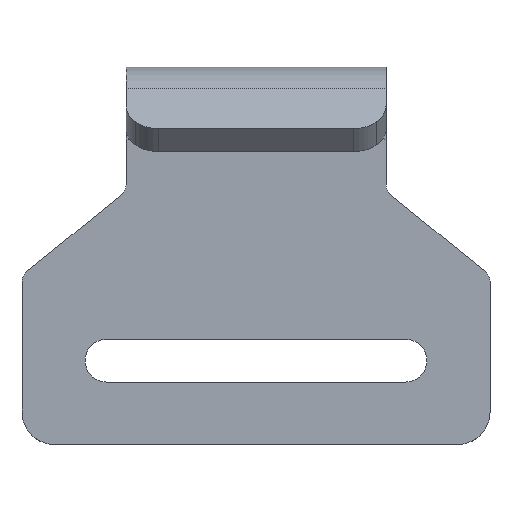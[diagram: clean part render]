
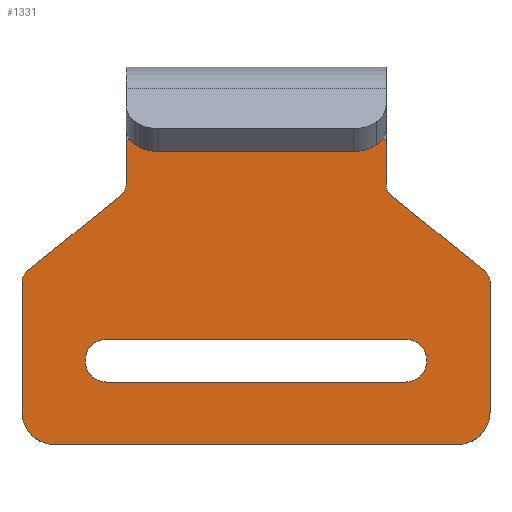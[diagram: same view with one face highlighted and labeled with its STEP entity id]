
A CAD part, top view. The second image highlights one B-rep face of the part: STEP entity #1331.
In plain terms, the highlighted planar face has unit normal (0, 0, 1).
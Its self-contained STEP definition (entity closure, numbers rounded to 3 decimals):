
#251=CARTESIAN_POINT('',(9.866,0.694,1.75));
#252=VERTEX_POINT('',#251);
#268=CARTESIAN_POINT('',(9.769,1.124,1.75));
#269=VERTEX_POINT('',#268);
#276=CARTESIAN_POINT('',(10.769,1.124,1.75));
#277=DIRECTION('',(0.0,0.0,1.0));
#278=DIRECTION('',(-0.903,-0.43,0.0));
#279=AXIS2_PLACEMENT_3D('',#276,#277,#278);
#280=CIRCLE('',#279,1.0);
#281=EDGE_CURVE('',#269,#252,#280,.T.);
#293=CARTESIAN_POINT('',(17.672,-5.898,1.75));
#294=VERTEX_POINT('',#293);
#310=CARTESIAN_POINT('',(17.4,-5.552,1.75));
#311=VERTEX_POINT('',#310);
#318=CARTESIAN_POINT('',(16.769,-6.328,1.75));
#319=DIRECTION('',(0.0,0.0,-1.0));
#320=DIRECTION('',(0.903,0.43,0.0));
#321=AXIS2_PLACEMENT_3D('',#318,#319,#320);
#322=CIRCLE('',#321,1.0);
#323=EDGE_CURVE('',#311,#294,#322,.T.);
#335=CARTESIAN_POINT('',(-10.328,0.694,1.75));
#336=VERTEX_POINT('',#335);
#352=CARTESIAN_POINT('',(-10.6,0.348,1.75));
#353=VERTEX_POINT('',#352);
#360=CARTESIAN_POINT('',(-11.231,1.124,1.75));
#361=DIRECTION('',(0.0,0.0,1.));
#362=DIRECTION('',(0.903,-0.43,0.0));
#363=AXIS2_PLACEMENT_3D('',#360,#361,#362);
#364=CIRCLE('',#363,1.0);
#365=EDGE_CURVE('',#353,#336,#364,.T.);
#377=CARTESIAN_POINT('',(-18.134,-5.898,1.75));
#378=VERTEX_POINT('',#377);
#394=CARTESIAN_POINT('',(-18.231,-6.328,1.75));
#395=VERTEX_POINT('',#394);
#402=CARTESIAN_POINT('',(-17.231,-6.328,1.75));
#403=DIRECTION('',(0.0,0.0,-1.0));
#404=DIRECTION('',(-0.903,0.43,0.0));
#405=AXIS2_PLACEMENT_3D('',#402,#403,#404);
#406=CIRCLE('',#405,1.0);
#407=EDGE_CURVE('',#395,#378,#406,.T.);
#419=CARTESIAN_POINT('',(17.037,-18.119,1.75));
#420=VERTEX_POINT('',#419);
#436=CARTESIAN_POINT('',(17.769,-16.352,1.75));
#437=VERTEX_POINT('',#436);
#444=CARTESIAN_POINT('',(15.269,-16.352,1.75));
#445=DIRECTION('',(0.0,0.0,-1.));
#446=DIRECTION('',(0.707,-0.707,0.0));
#447=AXIS2_PLACEMENT_3D('',#444,#445,#446);
#448=CIRCLE('',#447,2.5);
#449=EDGE_CURVE('',#437,#420,#448,.T.);
#461=CARTESIAN_POINT('',(-17.499,-18.119,1.75));
#462=VERTEX_POINT('',#461);
#478=CARTESIAN_POINT('',(-15.731,-18.852,1.75));
#479=VERTEX_POINT('',#478);
#486=CARTESIAN_POINT('',(-15.731,-16.352,1.75));
#487=DIRECTION('',(0.0,0.0,-1.));
#488=DIRECTION('',(-0.707,-0.707,0.0));
#489=AXIS2_PLACEMENT_3D('',#486,#487,#488);
#490=CIRCLE('',#489,2.5);
#491=EDGE_CURVE('',#479,#462,#490,.T.);
#503=CARTESIAN_POINT('',(12.919,-12.402,1.75));
#504=VERTEX_POINT('',#503);
#520=CARTESIAN_POINT('',(11.269,-14.052,1.75));
#521=VERTEX_POINT('',#520);
#528=CARTESIAN_POINT('',(11.269,-12.402,1.75));
#529=DIRECTION('',(0.0,0.0,-1.0));
#530=DIRECTION('',(1.0,0.0,0.0));
#531=AXIS2_PLACEMENT_3D('',#528,#529,#530);
#532=CIRCLE('',#531,1.65);
#533=EDGE_CURVE('',#504,#521,#532,.T.);
#543=CARTESIAN_POINT('',(-13.381,-12.402,1.75));
#544=VERTEX_POINT('',#543);
#553=CARTESIAN_POINT('',(-11.731,-14.052,1.75));
#554=VERTEX_POINT('',#553);
#555=CARTESIAN_POINT('',(-11.731,-12.402,1.75));
#556=DIRECTION('',(0.0,0.0,-1.0));
#557=DIRECTION('',(1.0,0.0,0.0));
#558=AXIS2_PLACEMENT_3D('',#555,#556,#557);
#559=CIRCLE('',#558,1.65);
#560=EDGE_CURVE('',#554,#544,#559,.T.);
#595=CARTESIAN_POINT('',(-11.731,-10.752,1.75));
#596=VERTEX_POINT('',#595);
#603=CARTESIAN_POINT('',(-11.731,-12.402,1.75));
#604=DIRECTION('',(0.0,0.0,-1.0));
#605=DIRECTION('',(1.0,0.0,0.0));
#606=AXIS2_PLACEMENT_3D('',#603,#604,#605);
#607=CIRCLE('',#606,1.65);
#608=EDGE_CURVE('',#544,#596,#607,.T.);
#625=CARTESIAN_POINT('',(11.269,-14.052,1.75));
#626=DIRECTION('',(-1.0,0.0,0.0));
#627=VECTOR('',#626,23.0);
#628=LINE('',#625,#627);
#629=EDGE_CURVE('',#521,#554,#628,.T.);
#641=CARTESIAN_POINT('',(11.269,-10.752,1.75));
#642=VERTEX_POINT('',#641);
#643=CARTESIAN_POINT('',(11.269,-12.402,1.75));
#644=DIRECTION('',(0.0,0.0,-1.0));
#645=DIRECTION('',(1.0,0.0,0.0));
#646=AXIS2_PLACEMENT_3D('',#643,#644,#645);
#647=CIRCLE('',#646,1.65);
#648=EDGE_CURVE('',#642,#504,#647,.T.);
#680=CARTESIAN_POINT('',(-11.731,-10.752,1.75));
#681=DIRECTION('',(1.0,0.0,0.0));
#682=VECTOR('',#681,23.0);
#683=LINE('',#680,#682);
#684=EDGE_CURVE('',#596,#642,#683,.T.);
#696=CARTESIAN_POINT('',(-18.231,-16.352,1.75));
#697=VERTEX_POINT('',#696);
#698=CARTESIAN_POINT('',(-15.731,-16.352,1.75));
#699=DIRECTION('',(0.0,0.0,-1.));
#700=DIRECTION('',(-0.707,-0.707,0.0));
#701=AXIS2_PLACEMENT_3D('',#698,#699,#700);
#702=CIRCLE('',#701,2.5);
#703=EDGE_CURVE('',#462,#697,#702,.T.);
#737=CARTESIAN_POINT('',(15.269,-18.852,1.75));
#738=VERTEX_POINT('',#737);
#745=CARTESIAN_POINT('',(15.269,-18.852,1.75));
#746=DIRECTION('',(-1.0,0.0,0.0));
#747=VECTOR('',#746,31.0);
#748=LINE('',#745,#747);
#749=EDGE_CURVE('',#738,#479,#748,.T.);
#864=CARTESIAN_POINT('',(15.269,-16.352,1.75));
#865=DIRECTION('',(0.0,0.0,-1.));
#866=DIRECTION('',(0.707,-0.707,0.0));
#867=AXIS2_PLACEMENT_3D('',#864,#865,#866);
#868=CIRCLE('',#867,2.5);
#869=EDGE_CURVE('',#420,#738,#868,.T.);
#883=CARTESIAN_POINT('',(17.769,-6.328,1.75));
#884=VERTEX_POINT('',#883);
#891=CARTESIAN_POINT('',(17.769,-6.328,1.75));
#892=DIRECTION('',(0.0,-1.0,0.0));
#893=VECTOR('',#892,10.024);
#894=LINE('',#891,#893);
#895=EDGE_CURVE('',#884,#437,#894,.T.);
#906=CARTESIAN_POINT('',(-17.861,-5.552,1.75));
#907=VERTEX_POINT('',#906);
#908=CARTESIAN_POINT('',(-17.231,-6.328,1.75));
#909=DIRECTION('',(0.0,0.0,-1.0));
#910=DIRECTION('',(-0.903,0.43,0.0));
#911=AXIS2_PLACEMENT_3D('',#908,#909,#910);
#912=CIRCLE('',#911,1.0);
#913=EDGE_CURVE('',#378,#907,#912,.T.);
#931=CARTESIAN_POINT('',(-17.861,-5.552,1.75));
#932=DIRECTION('',(0.776,0.631,0.0));
#933=VECTOR('',#932,9.356);
#934=LINE('',#931,#933);
#935=EDGE_CURVE('',#907,#353,#934,.T.);
#948=CARTESIAN_POINT('',(-10.231,1.124,1.75));
#949=VERTEX_POINT('',#948);
#950=CARTESIAN_POINT('',(-11.231,1.124,1.75));
#951=DIRECTION('',(0.0,0.0,1.));
#952=DIRECTION('',(0.903,-0.43,0.0));
#953=AXIS2_PLACEMENT_3D('',#950,#951,#952);
#954=CIRCLE('',#953,1.0);
#955=EDGE_CURVE('',#336,#949,#954,.T.);
#973=CARTESIAN_POINT('',(16.769,-6.328,1.75));
#974=DIRECTION('',(0.0,0.0,-1.0));
#975=DIRECTION('',(0.903,0.43,0.0));
#976=AXIS2_PLACEMENT_3D('',#973,#974,#975);
#977=CIRCLE('',#976,1.0);
#978=EDGE_CURVE('',#294,#884,#977,.T.);
#991=CARTESIAN_POINT('',(10.139,0.348,1.75));
#992=VERTEX_POINT('',#991);
#993=CARTESIAN_POINT('',(10.769,1.124,1.75));
#994=DIRECTION('',(0.0,0.0,1.0));
#995=DIRECTION('',(-0.903,-0.43,0.0));
#996=AXIS2_PLACEMENT_3D('',#993,#994,#995);
#997=CIRCLE('',#996,1.0);
#998=EDGE_CURVE('',#252,#992,#997,.T.);
#1041=CARTESIAN_POINT('',(9.769,4.648,1.75));
#1042=VERTEX_POINT('',#1041);
#1050=CARTESIAN_POINT('',(9.769,4.648,1.75));
#1051=DIRECTION('',(0.0,-1.0,0.0));
#1052=VECTOR('',#1051,3.524);
#1053=LINE('',#1050,#1052);
#1054=EDGE_CURVE('',#1042,#269,#1053,.T.);
#1220=CARTESIAN_POINT('',(-10.231,4.648,1.75));
#1221=VERTEX_POINT('',#1220);
#1229=CARTESIAN_POINT('',(-10.231,4.648,1.75));
#1230=DIRECTION('',(1.0,0.0,0.0));
#1231=VECTOR('',#1230,20.0);
#1232=LINE('',#1229,#1231);
#1233=EDGE_CURVE('',#1221,#1042,#1232,.T.);
#1247=CARTESIAN_POINT('',(10.139,0.348,1.75));
#1248=DIRECTION('',(0.776,-0.631,0.0));
#1249=VECTOR('',#1248,9.356);
#1250=LINE('',#1247,#1249);
#1251=EDGE_CURVE('',#992,#311,#1250,.T.);
#1262=CARTESIAN_POINT('',(-18.231,-16.352,1.75));
#1263=DIRECTION('',(0.0,1.0,0.0));
#1264=VECTOR('',#1263,10.024);
#1265=LINE('',#1262,#1264);
#1266=EDGE_CURVE('',#697,#395,#1265,.T.);
#1279=CARTESIAN_POINT('',(-10.231,1.124,1.75));
#1280=DIRECTION('',(0.0,1.0,0.0));
#1281=VECTOR('',#1280,3.524);
#1282=LINE('',#1279,#1281);
#1283=EDGE_CURVE('',#949,#1221,#1282,.T.);
#1296=CARTESIAN_POINT('',(0.,-0.571,1.75));
#1297=DIRECTION('',(0.0,0.0,1.0));
#1298=DIRECTION('',(1.0,0.0,0.0));
#1299=AXIS2_PLACEMENT_3D('',#1296,#1297,#1298);
#1300=PLANE('',#1299);
#1301=ORIENTED_EDGE('',*,*,#491,.F.);
#1302=ORIENTED_EDGE('',*,*,#749,.F.);
#1303=ORIENTED_EDGE('',*,*,#869,.F.);
#1304=ORIENTED_EDGE('',*,*,#449,.F.);
#1305=ORIENTED_EDGE('',*,*,#895,.F.);
#1306=ORIENTED_EDGE('',*,*,#978,.F.);
#1307=ORIENTED_EDGE('',*,*,#323,.F.);
#1308=ORIENTED_EDGE('',*,*,#1251,.F.);
#1309=ORIENTED_EDGE('',*,*,#998,.F.);
#1310=ORIENTED_EDGE('',*,*,#281,.F.);
#1311=ORIENTED_EDGE('',*,*,#1054,.F.);
#1312=ORIENTED_EDGE('',*,*,#1233,.F.);
#1313=ORIENTED_EDGE('',*,*,#1283,.F.);
#1314=ORIENTED_EDGE('',*,*,#955,.F.);
#1315=ORIENTED_EDGE('',*,*,#365,.F.);
#1316=ORIENTED_EDGE('',*,*,#935,.F.);
#1317=ORIENTED_EDGE('',*,*,#913,.F.);
#1318=ORIENTED_EDGE('',*,*,#407,.F.);
#1319=ORIENTED_EDGE('',*,*,#1266,.F.);
#1320=ORIENTED_EDGE('',*,*,#703,.F.);
#1321=EDGE_LOOP('',(#1301,#1302,#1303,#1304,#1305,#1306,#1307,#1308,#1309,#1310,#1311,#1312,#1313,#1314,#1315,#1316,#1317,#1318,#1319,#1320));
#1322=FACE_OUTER_BOUND('',#1321,.T.);
#1323=ORIENTED_EDGE('',*,*,#648,.T.);
#1324=ORIENTED_EDGE('',*,*,#533,.T.);
#1325=ORIENTED_EDGE('',*,*,#629,.T.);
#1326=ORIENTED_EDGE('',*,*,#560,.T.);
#1327=ORIENTED_EDGE('',*,*,#608,.T.);
#1328=ORIENTED_EDGE('',*,*,#684,.T.);
#1329=EDGE_LOOP('',(#1323,#1324,#1325,#1326,#1327,#1328));
#1330=FACE_BOUND('',#1329,.T.);
#1331=ADVANCED_FACE('',(#1322,#1330),#1300,.T.);
